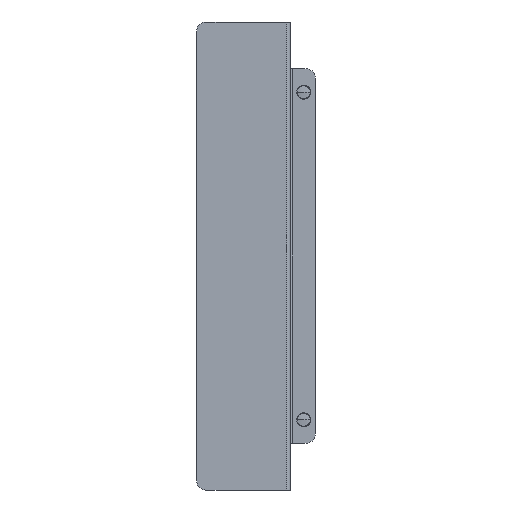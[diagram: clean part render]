
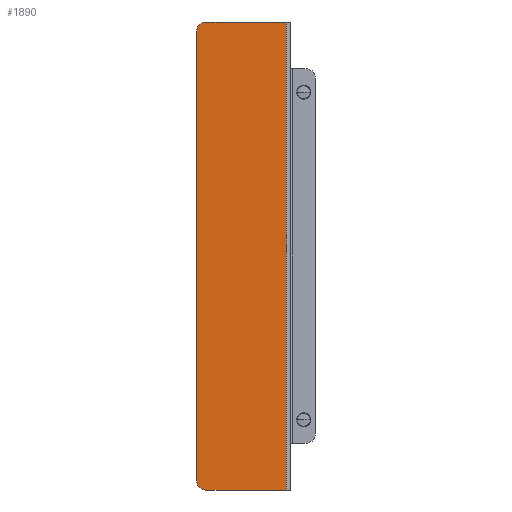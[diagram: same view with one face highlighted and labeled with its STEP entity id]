
A CAD part, left-side view. The second image highlights one B-rep face of the part: STEP entity #1890.
In plain terms, the highlighted planar face has unit normal (-1, 0, 0).
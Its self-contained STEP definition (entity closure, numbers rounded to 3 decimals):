
#17=DIRECTION('',(0.,-1.,0.));
#18=VECTOR('',#17,68.5);
#19=CARTESIAN_POINT('',(0.,72.,-200.));
#20=LINE('',#19,#18);
#487=DIRECTION('',(0.,-1.,0.));
#488=VECTOR('',#487,68.5);
#489=CARTESIAN_POINT('',(0.,72.,200.));
#490=LINE('',#489,#488);
#503=CARTESIAN_POINT('',(0.,72.,192.));
#504=DIRECTION('',(-1.,0.,0.));
#505=DIRECTION('',(0.,0.,1.));
#506=AXIS2_PLACEMENT_3D('',#503,#504,#505);
#508=DIRECTION('',(0.,0.,-1.));
#509=VECTOR('',#508,400.);
#510=CARTESIAN_POINT('',(0.,3.5,200.));
#511=LINE('',#510,#509);
#512=CARTESIAN_POINT('',(0.,72.,-192.));
#513=DIRECTION('',(-1.,0.,0.));
#514=DIRECTION('',(0.,1.,0.));
#515=AXIS2_PLACEMENT_3D('',#512,#513,#514);
#517=DIRECTION('',(0.,0.,1.));
#518=VECTOR('',#517,384.);
#519=CARTESIAN_POINT('',(0.,80.,-192.));
#520=LINE('',#519,#518);
#970=CARTESIAN_POINT('',(0.,3.5,-200.));
#972=VERTEX_POINT('',#970);
#973=CARTESIAN_POINT('',(0.,3.5,200.));
#974=VERTEX_POINT('',#973);
#1009=CARTESIAN_POINT('',(0.,72.,200.));
#1010=CARTESIAN_POINT('',(0.,80.,192.));
#1011=VERTEX_POINT('',#1009);
#1012=VERTEX_POINT('',#1010);
#1021=CARTESIAN_POINT('',(0.,80.,-192.));
#1022=VERTEX_POINT('',#1021);
#1023=CARTESIAN_POINT('',(0.,72.,-200.));
#1024=VERTEX_POINT('',#1023);
#1874=CARTESIAN_POINT('',(0.,80.,-200.));
#1875=DIRECTION('',(-1.,0.,0.));
#1876=DIRECTION('',(0.,-1.,0.));
#1877=AXIS2_PLACEMENT_3D('',#1874,#1875,#1876);
#1878=PLANE('',#1877);
#1880=ORIENTED_EDGE('',*,*,#1879,.F.);
#1881=ORIENTED_EDGE('',*,*,#1849,.T.);
#1882=ORIENTED_EDGE('',*,*,#1867,.T.);
#1883=ORIENTED_EDGE('',*,*,#1254,.F.);
#1885=ORIENTED_EDGE('',*,*,#1884,.F.);
#1887=ORIENTED_EDGE('',*,*,#1886,.T.);
#1888=EDGE_LOOP('',(#1880,#1881,#1882,#1883,#1885,#1887));
#1889=FACE_OUTER_BOUND('',#1888,.F.);
#1890=ADVANCED_FACE('',(#1889),#1878,.T.);
#507=CIRCLE('',#506,8.);
#516=CIRCLE('',#515,8.);
#1254=EDGE_CURVE('',#1024,#972,#20,.T.);
#1849=EDGE_CURVE('',#1011,#974,#490,.T.);
#1867=EDGE_CURVE('',#974,#972,#511,.T.);
#1879=EDGE_CURVE('',#1011,#1012,#507,.T.);
#1884=EDGE_CURVE('',#1022,#1024,#516,.T.);
#1886=EDGE_CURVE('',#1022,#1012,#520,.T.);
